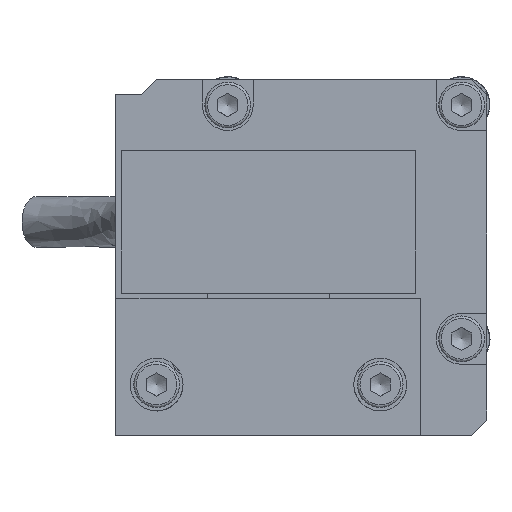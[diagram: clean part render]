
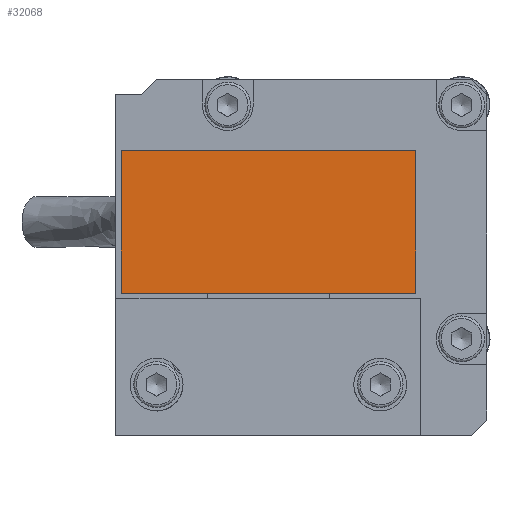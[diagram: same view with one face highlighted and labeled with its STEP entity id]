
A CAD part, front view. The second image highlights one B-rep face of the part: STEP entity #32068.
In plain terms, the highlighted planar face has unit normal (0, -1, 0).
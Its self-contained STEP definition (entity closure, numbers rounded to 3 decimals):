
#1667=PLANE($,#34472);
#5550=LINE($,#118674,#7990);
#5553=LINE($,#118681,#7993);
#5560=LINE($,#118693,#8000);
#5561=LINE($,#118695,#8001);
#7990=VECTOR($,#41581,29.);
#7993=VECTOR($,#41586,29.);
#8000=VECTOR($,#41599,14.);
#8001=VECTOR($,#41602,14.);
#9706=FACE_OUTER_BOUND($,#11740,.T.);
#11740=EDGE_LOOP($,(#29763,#29764,#29765,#29766));
#15872=VERTEX_POINT($,#118667);
#15875=VERTEX_POINT($,#118672);
#15877=VERTEX_POINT($,#118678);
#15878=VERTEX_POINT($,#118680);
#20537=EDGE_CURVE($,#15875,#15872,#5550,.T.);
#20540=EDGE_CURVE($,#15877,#15878,#5553,.T.);
#20548=EDGE_CURVE($,#15878,#15875,#5560,.T.);
#20549=EDGE_CURVE($,#15877,#15872,#5561,.T.);
#29763=ORIENTED_EDGE($,*,*,#20540,.F.);
#29764=ORIENTED_EDGE($,*,*,#20549,.T.);
#29765=ORIENTED_EDGE($,*,*,#20537,.F.);
#29766=ORIENTED_EDGE($,*,*,#20548,.F.);
#32068=ADVANCED_FACE($,(#9706),#1667,.T.);
#34472=AXIS2_PLACEMENT_3D($,#118694,#41600,#41601);
#41581=DIRECTION($,(1.,0.,0.));
#41586=DIRECTION($,(-1.,0.,0.));
#41599=DIRECTION($,(0.,0.,1.));
#41600=DIRECTION('center_axis',(0.,-1.,0.));
#41601=DIRECTION('ref_axis',(1.,0.,0.));
#41602=DIRECTION($,(0.,0.,1.));
#118667=CARTESIAN_POINT('',(-0.5,9.,28.));
#118672=CARTESIAN_POINT('',(-29.5,9.,28.));
#118674=CARTESIAN_POINT($,(-0.5,9.,28.));
#118678=CARTESIAN_POINT('',(-0.5,9.,14.));
#118680=CARTESIAN_POINT('',(-29.5,9.,14.));
#118681=CARTESIAN_POINT($,(-0.5,9.,14.));
#118693=CARTESIAN_POINT($,(-29.5,9.,14.));
#118694=CARTESIAN_POINT('Origin',(-29.5,9.,14.));
#118695=CARTESIAN_POINT($,(-0.5,9.,14.));
